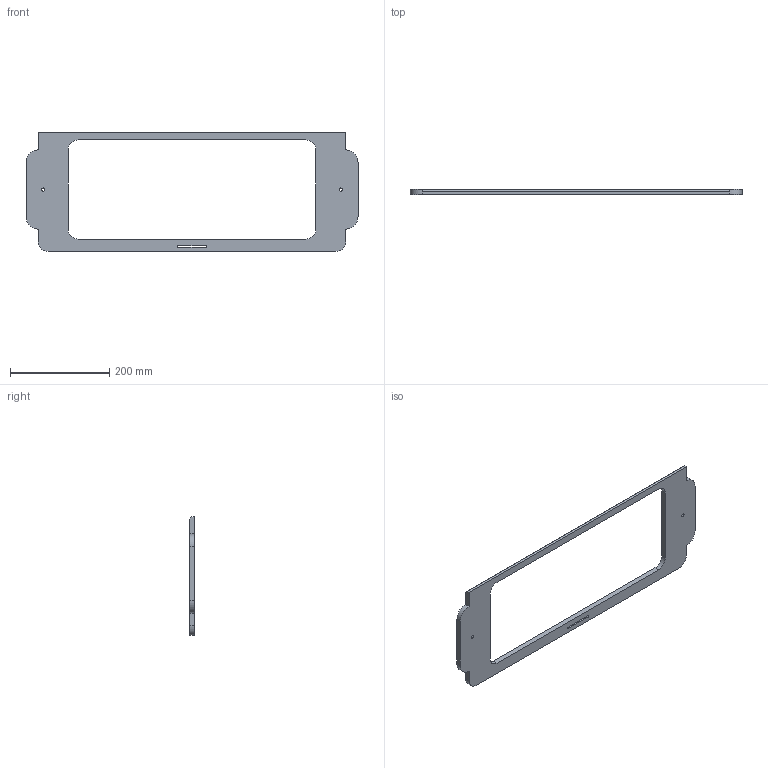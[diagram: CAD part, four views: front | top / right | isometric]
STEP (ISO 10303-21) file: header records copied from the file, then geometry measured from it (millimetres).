
FILE_DESCRIPTION (( 'STEP AP214' ), '1' );
FILE_NAME ('SS101B-4500.STEP', '2026-09-20T09:55:48', ( 'Windows 蚚誧' ), ( 'Organization' ), 'SwSTEP 2.0', 'SolidWorks 2024', '' );
FILE_SCHEMA (( 'AUTOMOTIVE_DESIGN' ));
Length unit declared in the file: millimetre
Products named in the file (1): SS101B-4500
Bounding box: 670 x 10 x 240 mm (x, y, z)
Volume: 554146.7 mm3; surface area: 143445.4 mm2
Topology: 1 solids, 1 shells, 37 faces, 105 edges, 70 vertices
Faces by surface type: plane 19, cylinder 18
Entity records: 1254 total; most frequent: DIRECTION 217, CARTESIAN_POINT 213, ORIENTED_EDGE 210, EDGE_CURVE 105, AXIS2_PLACEMENT_3D 74, VERTEX_POINT 70, VECTOR 69, LINE 69
